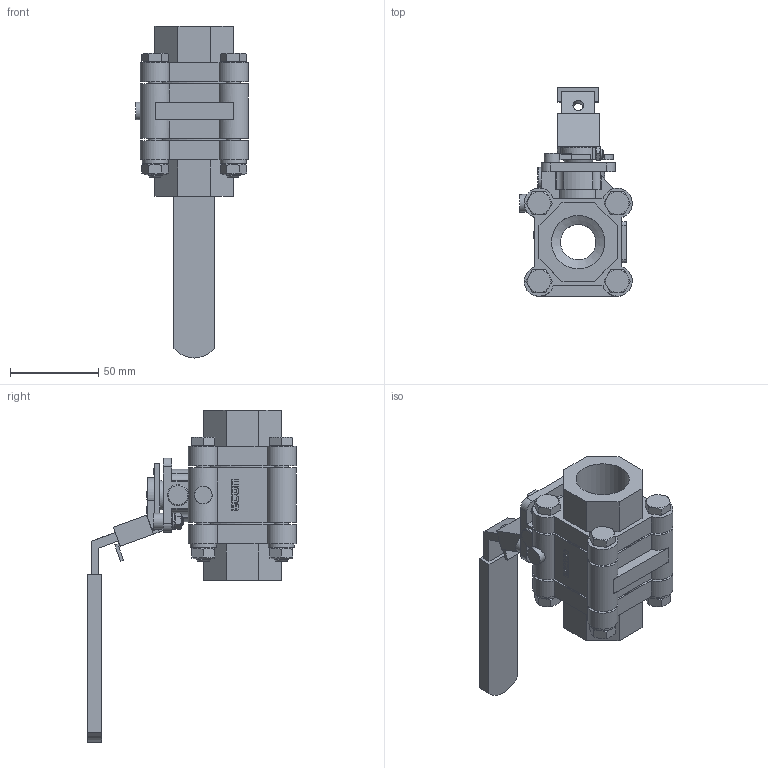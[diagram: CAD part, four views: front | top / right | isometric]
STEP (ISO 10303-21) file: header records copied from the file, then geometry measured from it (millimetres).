
FILE_DESCRIPTION(/* description */ ('Eriks item no: 13278904'),/* implementation_level */ '2;1');
FILE_NAME(/* name */ 'L:\DATA\ENG\Inventor\Econ 3D modellen\kogelkranen\7442\Rubens Versie\7442-DN25-RB.stp',/* time_stamp */ '2023-06-07T22:37:11+02:00',/* author */ ('roger.thijssen'),/* organization */ (''),/* preprocessor_version */ 'ST-DEVELOPER v18',/* originating_system */ 'Autodesk Inventor 2020',/* authorisation */ '');
FILE_SCHEMA (('CONFIG_CONTROL_DESIGN'));
Length unit declared in the file: millimetre
Products named in the file (1): Ball valve, 7442 - 1" - RB, (TF4103)
Bounding box: 63.78 x 118.43 x 188.3 mm (x, y, z)
Volume: 233023 mm3; surface area: 70023.7 mm2
Topology: 1 solids, 1 shells, 645 faces, 1709 edges, 1118 vertices
Faces by surface type: plane 402, cylinder 149, cone 62, bspline 30, sphere 1, torus 1
Full cylindrical faces by diameter (mm): 5 x4, 5.5 x1, 6 x1, 8 x8, 8.6 x1, 9 x13, 10 x1, 11.6 x4, 12 x1, 20 x1, 23 x1, 25 x1, 29 x1, 30.291 x2, 49.5 x2
Entity records: 20574 total; most frequent: CARTESIAN_POINT 4431, ORIENTED_EDGE 3416, DIRECTION 3212, EDGE_CURVE 1708, VERTEX_POINT 1118, AXIS2_PLACEMENT_3D 1117, LINE 978, VECTOR 978
